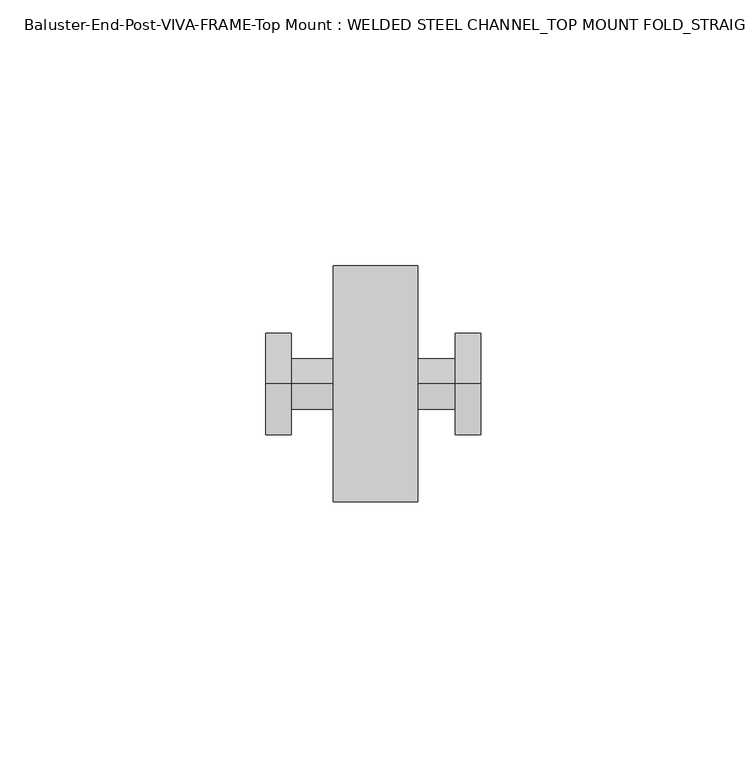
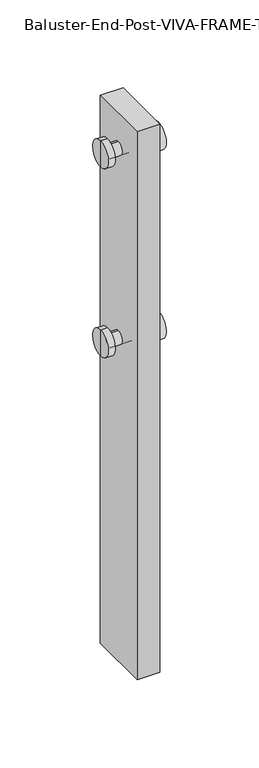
"""IFC4 building model written with IfcOpenShell, lengths in millimetres: proxy geometry, Baluster-End-Post-VIVA-FRAME-Top Mount : WELDED STEEL CHANNEL_TOP MOUNT FOLD_STRAIGHT."""

from ifc_helpers import new_model, si_unit, frame, origin, place, context, project, spatial, polyline, circle_curve, outline, extrude, source, transform, mapped, element, save
from ifc_brep_helpers import plane_surface, cylinder_surface, advanced_brep


def baluster_end_post_viva_frame_top_mount_welded_steel_channel_f5500c4d(model_context):
    return source(origin(), model_context, "Body", "SolidModel", [
        extrude(outline(polyline([(7.9375, -78.2802567), (7.9375, -122.7302567), (-7.9375, -122.7302567), (-7.9375, -78.2802567), (7.9375, -78.2802567)])), frame((0.0, 0.0, 0.5143555), z_axis=(0.0, 0.0, 1.0), x_axis=(1.0, 0.0, 0.0)), (0.0, 0.0, 1.0), 406.4),
        advanced_brep(
        [(-20.6502, -100.5078, 231.7496), (-20.6502, -100.5078, 250.8504), (-20.6502, -100.5078, 241.3), (-15.875, -100.5078, 231.7496), (-15.875, -100.5078, 250.8504), (-15.875, -100.5078, 236.5248), (-15.875, -100.5078, 246.0752), (15.0622, -100.5078, 236.5248), (15.0622, -100.5078, 246.0752), (15.0622, -100.5078, 231.7496), (15.0622, -100.5078, 250.8504), (19.8374, -100.5078, 231.7496), (19.8374, -100.5078, 250.8504), (19.8374, -100.5078, 241.3)],
        [
            (0, 1, circle_curve(frame((-20.6502, -100.5078, 241.3), z_axis=(-1.0, 0.0, 0.0), x_axis=(0.0, 0.0, 1.0)), 9.5504)),
            (1, 2),
            (2, 0),
            (1, 0, circle_curve(frame((-20.6502, -100.5078, 241.3), z_axis=(-1.0, 0.0, 0.0), x_axis=(0.0, 0.0, 1.0)), 9.5504)),
            (3, 4, circle_curve(frame((-15.875, -100.5078, 241.3), z_axis=(-1.0, 0.0, 0.0), x_axis=(0.0, 0.0, 1.0)), 9.5504)),
            (4, 1),
            (0, 3),
            (4, 3, circle_curve(frame((-15.875, -100.5078, 241.3), z_axis=(-1.0, 0.0, 0.0), x_axis=(0.0, 0.0, 1.0)), 9.5504)),
            (5, 6, circle_curve(frame((-15.875, -100.5078, 241.3), z_axis=(-1.0, 0.0, 0.0), x_axis=(0.0, 0.0, 1.0)), 4.7752)),
            (6, 4),
            (3, 5),
            (6, 5, circle_curve(frame((-15.875, -100.5078, 241.3), z_axis=(-1.0, 0.0, 0.0), x_axis=(0.0, 0.0, 1.0)), 4.7752)),
            (7, 8, circle_curve(frame((15.0622, -100.5078, 241.3), z_axis=(-1.0, 0.0, 0.0), x_axis=(0.0, 0.0, 1.0)), 4.7752)),
            (8, 6),
            (5, 7),
            (8, 7, circle_curve(frame((15.0622, -100.5078, 241.3), z_axis=(-1.0, 0.0, 0.0), x_axis=(0.0, 0.0, 1.0)), 4.7752)),
            (9, 10, circle_curve(frame((15.0622, -100.5078, 241.3), z_axis=(-1.0, 0.0, 0.0), x_axis=(0.0, 0.0, 1.0)), 9.5504)),
            (10, 8),
            (7, 9),
            (10, 9, circle_curve(frame((15.0622, -100.5078, 241.3), z_axis=(-1.0, 0.0, 0.0), x_axis=(0.0, 0.0, 1.0)), 9.5504)),
            (11, 12, circle_curve(frame((19.8374, -100.5078, 241.3), z_axis=(-1.0, 0.0, 0.0), x_axis=(0.0, 0.0, 1.0)), 9.5504)),
            (12, 10),
            (9, 11),
            (12, 11, circle_curve(frame((19.8374, -100.5078, 241.3), z_axis=(-1.0, 0.0, 0.0), x_axis=(0.0, 0.0, 1.0)), 9.5504)),
            (13, 12),
            (11, 13),
        ],
        [
            plane_surface(frame((-20.6502, -100.5078, 241.3), z_axis=(-1.0, 0.0, 0.0), x_axis=(0.0, 0.0, 1.0))),
            cylinder_surface(frame((-3412.2305571, -100.5078, 241.3), z_axis=(1.0, 0.0, 0.0), x_axis=(0.0, 0.0, 1.0)), 9.5504),
            plane_surface(frame((-15.875, -100.5078, 241.3), z_axis=(1.0, 0.0, 0.0), x_axis=(0.0, 0.0, 1.0))),
            cylinder_surface(frame((-3412.2305571, -100.5078, 241.3), z_axis=(1.0, 0.0, 0.0), x_axis=(0.0, 0.0, 1.0)), 4.7752),
            plane_surface(frame((15.0622, -100.5078, 241.3), z_axis=(-1.0, 0.0, 0.0), x_axis=(0.0, 0.0, 1.0))),
            plane_surface(frame((19.8374, -100.5078, 241.3), z_axis=(1.0, 0.0, 0.0), x_axis=(0.0, 0.0, 1.0))),
        ],
        [
            (0, [[1, 2, 3]]),
            (0, [[4, -3, -2]]),
            (1, [[5, 6, -1, 7]]),
            (1, [[8, -7, -4, -6]]),
            (2, [[9, 10, -5, 11]]),
            (2, [[12, -11, -8, -10]]),
            (3, [[13, 14, -9, 15]]),
            (3, [[16, -15, -12, -14]]),
            (4, [[17, 18, -13, 19]]),
            (4, [[20, -19, -16, -18]]),
            (1, [[21, 22, -17, 23]]),
            (1, [[24, -23, -20, -22]]),
            (5, [[25, -21, 26]]),
            (5, [[-26, -24, -25]]),
        ],
    ),
        advanced_brep(
        [(-20.6502, -100.5078, 371.9639555), (-20.6502, -100.5078, 391.0647555), (-20.6502, -100.5078, 381.5143555), (-15.875, -100.5078, 371.9639555), (-15.875, -100.5078, 391.0647555), (-15.875, -100.5078, 376.7391555), (-15.875, -100.5078, 386.2895555), (15.0622, -100.5078, 376.7391555), (15.0622, -100.5078, 386.2895555), (15.0622, -100.5078, 371.9639555), (15.0622, -100.5078, 391.0647555), (19.8374, -100.5078, 371.9639555), (19.8374, -100.5078, 391.0647555), (19.8374, -100.5078, 381.5143555)],
        [
            (0, 1, circle_curve(frame((-20.6502, -100.5078, 381.5143555), z_axis=(-1.0, 0.0, 0.0), x_axis=(0.0, 0.0, 1.0)), 9.5504)),
            (1, 2),
            (2, 0),
            (1, 0, circle_curve(frame((-20.6502, -100.5078, 381.5143555), z_axis=(-1.0, 0.0, 0.0), x_axis=(0.0, 0.0, 1.0)), 9.5504)),
            (3, 4, circle_curve(frame((-15.875, -100.5078, 381.5143555), z_axis=(-1.0, 0.0, 0.0), x_axis=(0.0, 0.0, 1.0)), 9.5504)),
            (4, 1),
            (0, 3),
            (4, 3, circle_curve(frame((-15.875, -100.5078, 381.5143555), z_axis=(-1.0, 0.0, 0.0), x_axis=(0.0, 0.0, 1.0)), 9.5504)),
            (5, 6, circle_curve(frame((-15.875, -100.5078, 381.5143555), z_axis=(-1.0, 0.0, 0.0), x_axis=(0.0, 0.0, 1.0)), 4.7752)),
            (6, 4),
            (3, 5),
            (6, 5, circle_curve(frame((-15.875, -100.5078, 381.5143555), z_axis=(-1.0, 0.0, 0.0), x_axis=(0.0, 0.0, 1.0)), 4.7752)),
            (7, 8, circle_curve(frame((15.0622, -100.5078, 381.5143555), z_axis=(-1.0, 0.0, 0.0), x_axis=(0.0, 0.0, 1.0)), 4.7752)),
            (8, 6),
            (5, 7),
            (8, 7, circle_curve(frame((15.0622, -100.5078, 381.5143555), z_axis=(-1.0, 0.0, 0.0), x_axis=(0.0, 0.0, 1.0)), 4.7752)),
            (9, 10, circle_curve(frame((15.0622, -100.5078, 381.5143555), z_axis=(-1.0, 0.0, 0.0), x_axis=(0.0, 0.0, 1.0)), 9.5504)),
            (10, 8),
            (7, 9),
            (10, 9, circle_curve(frame((15.0622, -100.5078, 381.5143555), z_axis=(-1.0, 0.0, 0.0), x_axis=(0.0, 0.0, 1.0)), 9.5504)),
            (11, 12, circle_curve(frame((19.8374, -100.5078, 381.5143555), z_axis=(-1.0, 0.0, 0.0), x_axis=(0.0, 0.0, 1.0)), 9.5504)),
            (12, 10),
            (9, 11),
            (12, 11, circle_curve(frame((19.8374, -100.5078, 381.5143555), z_axis=(-1.0, 0.0, 0.0), x_axis=(0.0, 0.0, 1.0)), 9.5504)),
            (13, 12),
            (11, 13),
        ],
        [
            plane_surface(frame((-20.6502, -100.5078, 381.5143555), z_axis=(-1.0, 0.0, 0.0), x_axis=(0.0, 0.0, 1.0))),
            cylinder_surface(frame((-3412.2305571, -100.5078, 381.5143555), z_axis=(1.0, 0.0, 0.0), x_axis=(0.0, 0.0, 1.0)), 9.5504),
            plane_surface(frame((-15.875, -100.5078, 381.5143555), z_axis=(1.0, 0.0, 0.0), x_axis=(0.0, 0.0, 1.0))),
            cylinder_surface(frame((-3412.2305571, -100.5078, 381.5143555), z_axis=(1.0, 0.0, 0.0), x_axis=(0.0, 0.0, 1.0)), 4.7752),
            plane_surface(frame((15.0622, -100.5078, 381.5143555), z_axis=(-1.0, 0.0, 0.0), x_axis=(0.0, 0.0, 1.0))),
            plane_surface(frame((19.8374, -100.5078, 381.5143555), z_axis=(1.0, 0.0, 0.0), x_axis=(0.0, 0.0, 1.0))),
        ],
        [
            (0, [[1, 2, 3]]),
            (0, [[4, -3, -2]]),
            (1, [[5, 6, -1, 7]]),
            (1, [[8, -7, -4, -6]]),
            (2, [[9, 10, -5, 11]]),
            (2, [[12, -11, -8, -10]]),
            (3, [[13, 14, -9, 15]]),
            (3, [[16, -15, -12, -14]]),
            (4, [[17, 18, -13, 19]]),
            (4, [[20, -19, -16, -18]]),
            (1, [[21, 22, -17, 23]]),
            (1, [[24, -23, -20, -22]]),
            (5, [[25, -21, 26]]),
            (5, [[-26, -24, -25]]),
        ],
    ),
    ])


if __name__ == "__main__":
    model = new_model("IFC4")
    model_context = context("Model", 3, world=origin())
    ifc_project = project(units=[si_unit("LENGTHUNIT", "METRE", prefix="MILLI")], contexts=[model_context])
    site = spatial("IfcSite", under=ifc_project)
    building = spatial("IfcBuilding", under=site)
    placement = place(None, origin())
    baluster_end_post_viva_frame_top_mount_welded_steel_channel_shape = baluster_end_post_viva_frame_top_mount_welded_steel_channel_f5500c4d(model_context)
    element("IfcBuildingElementProxy", 1, Name="Baluster-End-Post-VIVA-FRAME-Top Mount : WELDED STEEL CHANNEL_TOP MOUNT FOLD_STRAIGHT", ObjectType="Baluster-End-Post-VIVA-FRAME-Top Mount : WELDED STEEL CHANNEL_TOP MOUNT FOLD_STRAIGHT", at=placement, inside=building, context=model_context, shape_type="MappedRepresentation", body=[
        mapped(baluster_end_post_viva_frame_top_mount_welded_steel_channel_shape, transform((0.0, 0.0, 0.0), x_axis=(1.0, 0.0, 0.0), y_axis=(0.0, 1.0, 0.0), z_axis=(0.0, 0.0, 1.0))),
    ])
    save(model, "model.ifc")
